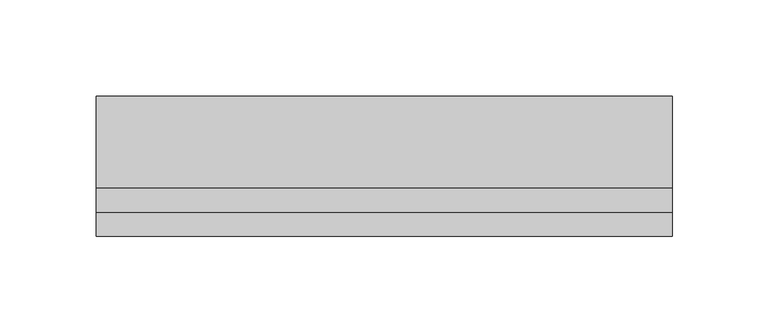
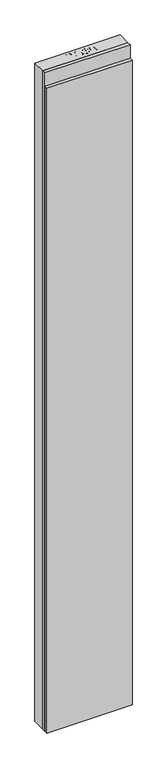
"""IFC4 building model written with IfcOpenShell, lengths in millimetres: proxy geometry, ParedeGeral_Blufab : Parede Geral - Largura 30 cm."""

from ifc_helpers import new_model, si_unit, origin, origin_with_axes, place, context, project, spatial, polyline, outline, extrude, source, transform, mapped, element, save


def generic_models_43d2ec2c(model_context):
    return source(origin(), model_context, "Body", "SweptSolid", [
        extrude(outline(polyline([(300.0, 12.5), (300.0, 0.0), (0.0, 0.0), (0.0, 12.5), (300.0, 12.5)])), origin_with_axes(), (0.0, 0.0, 1.0), 2400.0),
        extrude(outline(polyline([(300.0, 25.0126803), (300.0, 12.5126803), (0.0, 12.5126803), (0.0, 25.0126803), (300.0, 25.0126803)])), origin_with_axes(), (0.0, 0.0, 1.0), 2450.0),
        extrude(outline(polyline([(300.0, 73.0), (300.0, 25.0126803), (0.0, 25.0126803), (0.0, 73.0), (300.0, 73.0)])), origin_with_axes(), (0.0, 0.0, 1.0), 2450.0),
        extrude(outline(polyline([(100.0857709, 36.7632273), (100.0857709, 66.9001204), (111.2546683, 66.9001204), (115.7575439, 66.6131724), (119.4179697, 65.2041844), (121.7908086, 62.290559), (122.6884407, 58.1813171), (120.2640983, 51.6698058), (111.5121857, 49.0063401), (103.8528825, 49.0063401), (103.8528825, 36.7632273), (100.0857709, 36.7632273)]), holes=[polyline([(103.8528825, 52.7734518), (111.7329149, 52.7734518), (117.2805753, 54.1566881), (118.921329, 58.0488796), (117.9537994, 61.1685189), (115.4117348, 62.8754913), (111.6446232, 63.1330087), (103.8528825, 63.1330087), (103.8528825, 52.7734518)])]), origin_with_axes(), (0.0, 0.0, 1.0), 2450.0),
        extrude(outline(polyline([(141.9948878, 48.5354512), (141.9948878, 52.3025628), (154.2380006, 52.3025628), (154.2380006, 41.0380161), (148.1936994, 37.484276), (141.8035891, 36.2923384), (133.7580099, 38.1869307), (128.2986411, 43.6720512), (126.4555523, 51.6845211), (128.2912835, 59.8772531), (133.5703901, 65.5242417), (141.5019259, 67.3710093), (147.3953955, 66.3004727), (151.5267103, 63.3206286), (153.8038998, 58.3358275), (150.3310938, 57.3572614), (148.6130849, 60.8411039), (145.6773866, 62.8497396), (141.4430648, 63.6038977), (136.6201318, 62.7908785), (133.3386244, 60.6571629), (131.3998863, 57.754574), (130.2226639, 51.8390315), (131.6390096, 45.2723379), (135.759288, 41.3433582), (141.5019259, 40.05945), (146.6559527, 41.0269797), (150.470889, 43.0907976), (150.470889, 48.5354512), (141.9948878, 48.5354512)])), origin_with_axes(), (0.0, 0.0, 1.0), 2450.0),
        extrude(outline(polyline([(158.9468901, 44.7683395), (162.7140018, 45.2392285), (164.792535, 41.2734606), (168.6810477, 40.05945), (173.2574997, 41.7296343), (174.9571146, 45.8646279), (173.272215, 49.7604982), (168.9900686, 51.3019238), (166.3486759, 50.8898959), (166.7680613, 54.6570076), (171.6461766, 55.6944348), (173.5444477, 59.020088), (172.168569, 61.9668228), (168.6221866, 63.1330087), (165.0316583, 61.9557864), (163.1848907, 58.4241192), (159.4177791, 58.8950082), (162.5006302, 64.803193), (168.4897491, 66.9001204), (173.0330917, 65.866372), (176.2115922, 63.0410382), (177.3115593, 59.2408172), (176.2667745, 55.7680112), (173.1765657, 53.2737713), (177.2821288, 50.6985973), (178.7242262, 45.7984091), (175.8400313, 39.058811), (168.5486102, 36.2923384), (161.9414496, 38.6541408), (158.9468901, 44.7683395)])), origin_with_axes(), (0.0, 0.0, 1.0), 2450.0),
        extrude(outline(polyline([(182.0204489, 51.5888717), (183.1277737, 60.2598504), (186.4166387, 65.2593667), (191.9091169, 66.9001204), (196.3089856, 65.9289119), (199.3476908, 63.1293299), (201.1135244, 58.6706001), (201.7977849, 51.5888717), (200.7014966, 42.9546813), (197.423668, 37.9441285), (191.9091169, 36.2923384), (185.0223659, 39.1618179), (182.0204489, 51.5888717)]), holes=[polyline([(185.7875605, 51.5962294), (187.5533941, 42.2409902), (191.9091169, 40.05945), (196.2648397, 42.2483479), (198.0306733, 51.5962294), (196.3237008, 60.8447827), (191.8649711, 63.1330087), (187.6122552, 61.1170154), (185.7875605, 51.5962294)])]), origin_with_axes(), (0.0, 0.0, 1.0), 2450.0),
    ])


if __name__ == "__main__":
    model = new_model("IFC4")
    model_context = context("Model", 3, world=origin())
    ifc_project = project(units=[si_unit("LENGTHUNIT", "METRE", prefix="MILLI")], contexts=[model_context])
    site = spatial("IfcSite", under=ifc_project)
    building = spatial("IfcBuilding", under=site)
    placement = place(None, origin())
    generic_models_shape = generic_models_43d2ec2c(model_context)
    element("IfcBuildingElementProxy", 1, Name="ParedeGeral_Blufab : Parede Geral - Largura 30 cm", ObjectType="ParedeGeral_Blufab : Parede Geral - Largura 30 cm", at=placement, inside=building, context=model_context, shape_type="MappedRepresentation", body=[
        mapped(generic_models_shape, transform((0.0, 0.0, 0.0), x_axis=(1.0, 0.0, 0.0), y_axis=(0.0, 1.0, 0.0), z_axis=(0.0, 0.0, 1.0))),
    ])
    save(model, "model.ifc")
